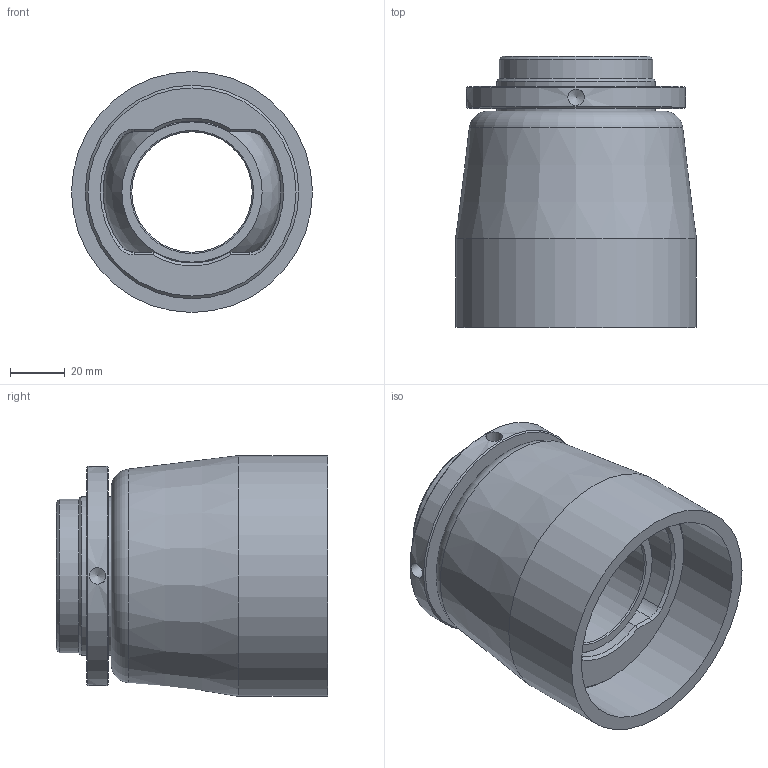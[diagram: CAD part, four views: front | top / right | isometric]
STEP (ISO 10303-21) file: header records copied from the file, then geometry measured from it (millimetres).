
FILE_DESCRIPTION(('STEP AP214'),'1');
FILE_NAME('Z:/J/Jp3/Palier/Palier-type1/3D TopSolid 2011/Serie 10.xx.xx/10.14.xx/10.14.04.step','2012-02-23T13:24:51',(' '),(' '),'Spatial InterOp 3D',' ',' ');
FILE_SCHEMA(('automotive_design'));
Length unit declared in the file: metre
Products named in the file (4): ecrou; rotule 04; boitier 04; hansing
Bounding box: 88 x 99 x 88 mm (x, y, z)
Volume: 262796.7 mm3; surface area: 99653.9 mm2
Topology: 4 solids, 4 shells, 69 faces, 149 edges, 90 vertices
Faces by surface type: cylinder 23, cone 22, plane 19, torus 3, sphere 2
Full cylindrical faces by diameter (mm): 6 x3, 44 x1, 48 x1, 50 x1, 56 x1, 56.5 x1, 58 x3, 78 x2, 80 x1, 88 x1
Entity records: 2475 total; most frequent: CARTESIAN_POINT 517, DIRECTION 304, ORIENTED_EDGE 208, AXIS2_PLACEMENT_3D 138, EDGE_LOOP 114, EDGE_CURVE 104, FACE_OUTER_BOUND 89, VERTEX_POINT 83
